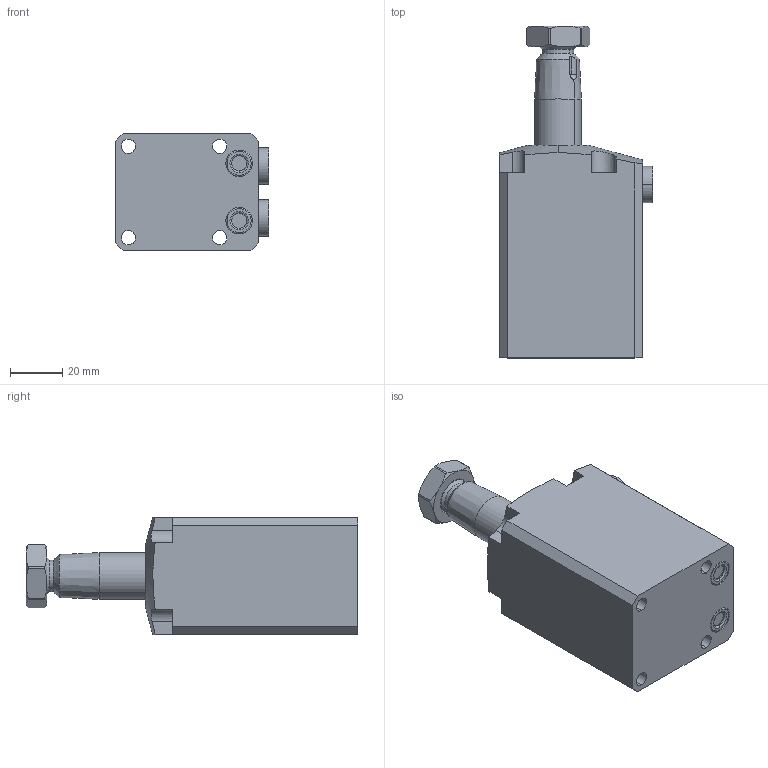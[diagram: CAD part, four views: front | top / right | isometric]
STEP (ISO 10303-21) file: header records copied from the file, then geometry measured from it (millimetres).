
FILE_DESCRIPTION(/* description */ (''),/* implementation_level */ '2;1');
FILE_NAME(/* name */ 'BRC02-LN45.stp',/* time_stamp */ '2025-01-05T09:18:23+08:00',/* author */ (''),/* organization */ (''),/* preprocessor_version */ 'ST-DEVELOPER v16.7',/* originating_system */ 'SIEMENS PLM Software NX 12.0',/* authorisation */ '');
FILE_SCHEMA (('AUTOMOTIVE_DESIGN { 1 0 10303 214 3 1 1 1 }'));
Length unit declared in the file: millimetre
Products named in the file (5): BRC02-LN45-03; BRC02-LN45-04; BRC02-LN45-02; BRC02-LN45-01; BRC02-LN45_stp
Assembly tree (5 placements, depth 2):
  BRC02-LN45_stp
    BRC02-LN45-01
    BRC02-LN45-02
    BRC02-LN45-04  x2
    BRC02-LN45-03
Bounding box: 58.8 x 127.3 x 45 mm (x, y, z)
Volume: 194529.1 mm3; surface area: 32710.9 mm2
Topology: 7 solids, 7 shells, 176 faces, 401 edges, 248 vertices
Faces by surface type: plane 68, cylinder 57, cone 34, torus 16, sphere 1
Full cylindrical faces by diameter (mm): 8.5 x2
Entity records: 4664 total; most frequent: CARTESIAN_POINT 961, DIRECTION 778, ORIENTED_EDGE 712, EDGE_CURVE 356, AXIS2_PLACEMENT_3D 313, VERTEX_POINT 222, EDGE_LOOP 180, ADVANCED_FACE 156
